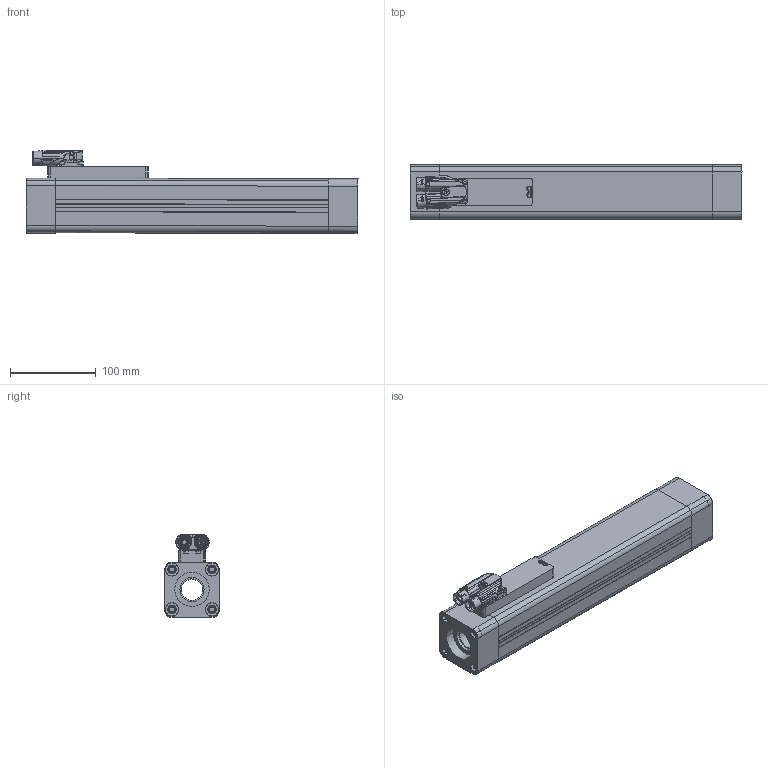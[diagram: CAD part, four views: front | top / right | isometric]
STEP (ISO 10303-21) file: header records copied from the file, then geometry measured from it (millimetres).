
FILE_DESCRIPTION(('STEP AP214'),'1');
FILE_NAME('C:/Users/Autocad/Dropbox/ETT/Drawing/Size 50/Solo corpo/ETT050S03.stp','2014-01-27T08:34:57',(' '),(' '),'Spatial InterOp 3D',' ',' ');
FILE_SCHEMA(('automotive_design'));
Length unit declared in the file: millimetre
Products named in the file (25): ETT050S03; ETH050 3.1; TAPPO NORMALE; TAPPO; Scatola; Vite M3 lunga; Connettore a y a blocchi; Pin; Vite; Pallino verde; Pallino arancione; Frutto verde; Frutto arancione; Corpo connettore; Vite M3scheda -tappo; cuscinetto; viti parker; riempitivo
Assembly tree (34 placements, depth 3):
  ETT050S03
    ETH050 3.1
    TAPPO NORMALE
    TAPPO
    Scatola
    Vite M3 lunga  x4
    Connettore a y a blocchi
      Pin
      Vite
      Pallino verde
      Pallino arancione
      Frutto verde
      Frutto arancione
      Corpo connettore
    Vite M3scheda -tappo  x4
    cuscinetto  x2
    viti parker
    viti parker
    viti parker
    viti parker
    viti parker
    viti parker
    viti parker
    viti parker
    riempitivo  x4
Bounding box: 386.15 x 63.5 x 97.6 mm (x, y, z)
Volume: 1016362.8 mm3; surface area: 323240.7 mm2
Topology: 26 solids, 1866 shells, 2457 faces, 10168 edges, 9610 vertices
Faces by surface type: cylinder 1013, plane 684, bspline 288, torus 262, cone 95, extrusion 68, sphere 47
Entity records: 160542 total; most frequent: CARTESIAN_POINT 59880, DIRECTION 14320, ORIENTED_EDGE 10115, EDGE_CURVE 9270, VERTEX_POINT 8990, AXIS2_PLACEMENT_3D 5477, STYLED_ITEM 3477, PRESENTATION_STYLE_ASSIGNMENT 3477
